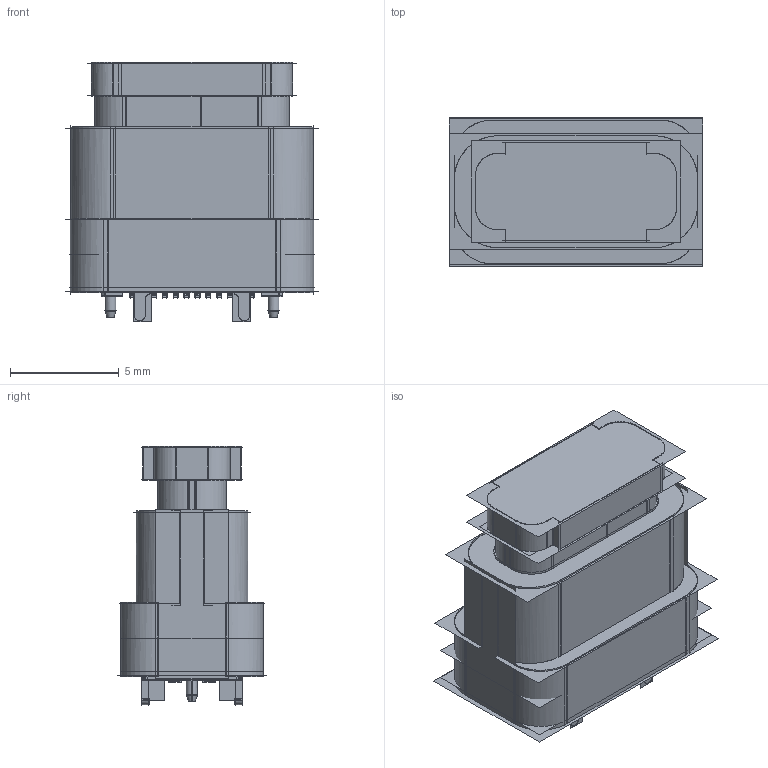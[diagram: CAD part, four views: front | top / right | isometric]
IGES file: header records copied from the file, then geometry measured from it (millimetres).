
Start section:  PTC IGES file: zd24pin_litie_fs930-.igs
Global section: file name: zd24pin_litie_fs930-.igs; native system: Creo Parametric by PTC Inc.; preprocessor: 2019010; author: connector; organization: Unknown; date: 20250407.185304; units: millimetre
Bounding box: 11.65 x 6.86 x 11.92 mm (x, y, z)
Surface area: 18795.5 mm2 (no closed solid volume)
Topology: 0 solids, 0 shells, 2025 faces, 15510 edges, 15510 vertices
Faces by surface type: bspline 2025
